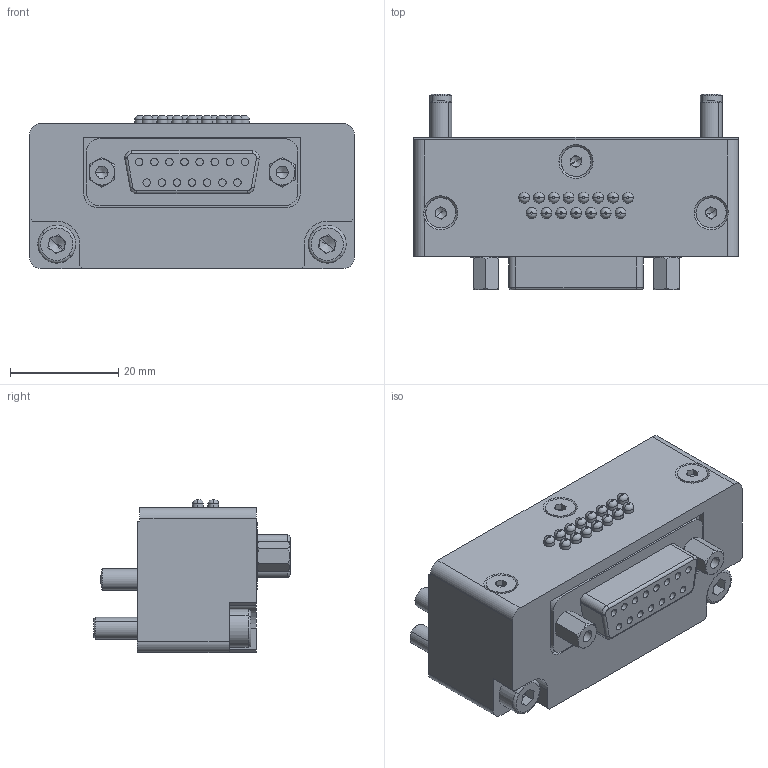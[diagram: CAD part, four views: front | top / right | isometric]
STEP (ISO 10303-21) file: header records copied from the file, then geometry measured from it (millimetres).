
FILE_DESCRIPTION (( 'STEP AP203' ), '1' );
FILE_NAME ('QCSM-15G21.STEP', '2024-04-15T06:04:10', ( '微软用户' ), ( '微软中国' ), 'SwSTEP 2.0', 'SolidWorks 2018', '' );
FILE_SCHEMA (( 'CONFIG_CONTROL_DESIGN' ));
Length unit declared in the file: millimetre
Products named in the file (1): QCSM-15G21
Bounding box: 60 x 36.24 x 28.3 mm (x, y, z)
Volume: 36253.2 mm3; surface area: 10574.9 mm2
Topology: 1 solids, 12 shells, 458 faces, 1069 edges, 649 vertices
Faces by surface type: plane 170, cylinder 137, cone 104, torus 47
Entity records: 13138 total; most frequent: CARTESIAN_POINT 2449, DIRECTION 2409, ORIENTED_EDGE 2066, EDGE_CURVE 1033, AXIS2_PLACEMENT_3D 957, VERTEX_POINT 649, EDGE_LOOP 514, CIRCLE 498
